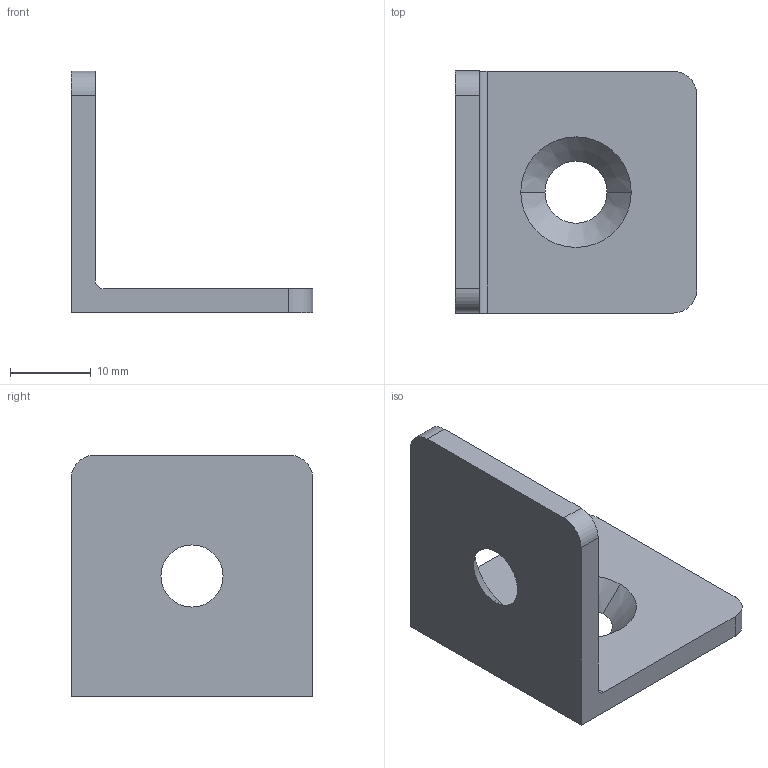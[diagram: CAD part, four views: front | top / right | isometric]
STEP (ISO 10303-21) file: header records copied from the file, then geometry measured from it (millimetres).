
FILE_DESCRIPTION (( 'STEP AP203' ), '1' );
FILE_NAME ('0106W30SCH.STEP', '2024-09-04T13:38:02', ( 'Windows-Benutzer' ), ( '' ), 'SwSTEP 2.0', 'SolidWorks 2024', '' );
FILE_SCHEMA (( 'CONFIG_CONTROL_DESIGN' ));
Length unit declared in the file: millimetre
Products named in the file (1): 0106W30SCH
Bounding box: 30 x 30 x 30 mm (x, y, z)
Volume: 4558.6 mm3; surface area: 3795.5 mm2
Topology: 1 solids, 1 shells, 17 faces, 45 edges, 30 vertices
Faces by surface type: plane 8, cylinder 5, cone 4
Entity records: 622 total; most frequent: DIRECTION 99, CARTESIAN_POINT 93, ORIENTED_EDGE 90, EDGE_CURVE 45, AXIS2_PLACEMENT_3D 36, VERTEX_POINT 30, LINE 27, VECTOR 27
